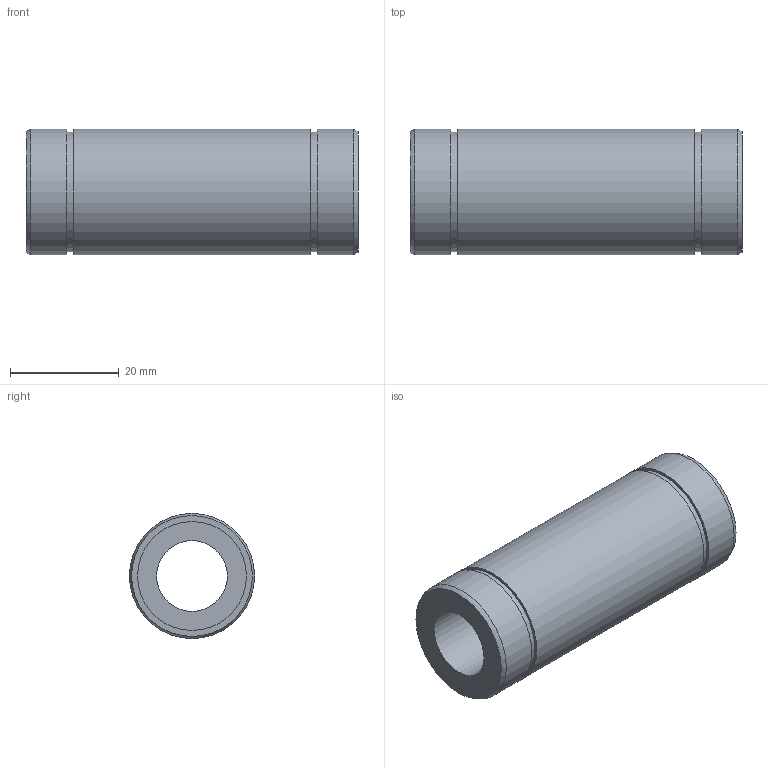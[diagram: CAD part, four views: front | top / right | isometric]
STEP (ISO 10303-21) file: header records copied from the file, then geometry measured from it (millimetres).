
FILE_DESCRIPTION((''),'2;1');
FILE_NAME('D:\製品 (図面)\カタログ用3D\リニアベアリング関連\STEP形式\LD\LD13.stp','2010-06-02T17:40:39',('Tsuchiya'),(''),'Autodesk Inventor 10','Autodesk Inventor 10','');
FILE_SCHEMA(('AUTOMOTIVE_DESIGN { 1 0 10303 214 1 1 1 1 }'));
Length unit declared in the file: millimetre
Products named in the file (1): LD13
Bounding box: 61 x 23 x 23 mm (x, y, z)
Volume: 17096.1 mm3; surface area: 7555.1 mm2
Topology: 1 solids, 1 shells, 18 faces, 28 edges, 18 vertices
Faces by surface type: plane 8, cylinder 8, torus 2
Full cylindrical faces by diameter (mm): 13 x1, 20 x2, 22 x2, 23 x3
Entity records: 391 total; most frequent: DIRECTION 74, CARTESIAN_POINT 55, AXIS2_PLACEMENT_3D 37, ORIENTED_EDGE 36, EDGE_LOOP 36, VERTEX_POINT 18, CIRCLE 18, EDGE_CURVE 18
